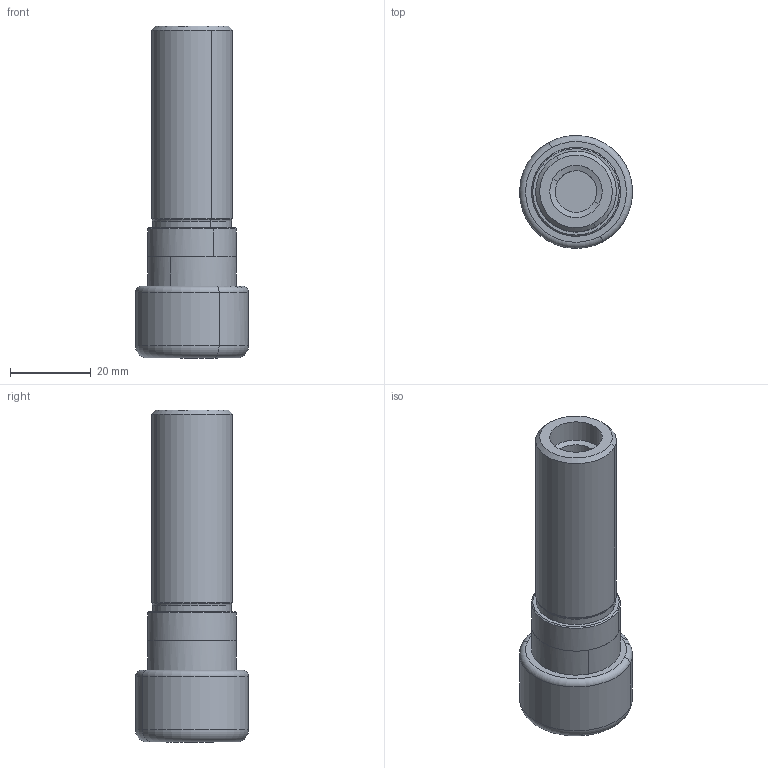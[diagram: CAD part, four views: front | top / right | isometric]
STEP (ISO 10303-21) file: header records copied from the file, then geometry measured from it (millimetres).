
FILE_DESCRIPTION(('CATIA V5 STEP','CAx-IF Rec.Pracs.--- Model Styling and Organization---1.2---2011-12-15'),'2;1');
FILE_NAME('\\nas01\drv1\utils\eitdev\rte\eit\transmagicconvert\db\out\635954472510803973\4507001 LM.stp','2016-04-05T07:01:04+00:00',('none'),('none'),'CATIA Version 5 Release 21 SP 5 (IN-10)','CATIA V5 STEP AP214','none');
FILE_SCHEMA(('AUTOMOTIVE_DESIGN { 1 0 10303 214 1 1 1 1 }'));
Length unit declared in the file: millimetre
Products named in the file (1): ST 20X 50 ER16 F
Bounding box: 27.99 x 27.99 x 82.3 mm (x, y, z)
Volume: 25794.2 mm3; surface area: 8536.9 mm2
Topology: 1 solids, 1 shells, 45 faces, 92 edges, 54 vertices
Faces by surface type: cylinder 16, cone 14, plane 7, torus 6, extrusion 2
Entity records: 1448 total; most frequent: CARTESIAN_POINT 455, ORIENTED_EDGE 184, DIRECTION 171, AXIS2_PLACEMENT_3D 93, EDGE_CURVE 92, VERTEX_POINT 54, EDGE_LOOP 50, CIRCLE 47
